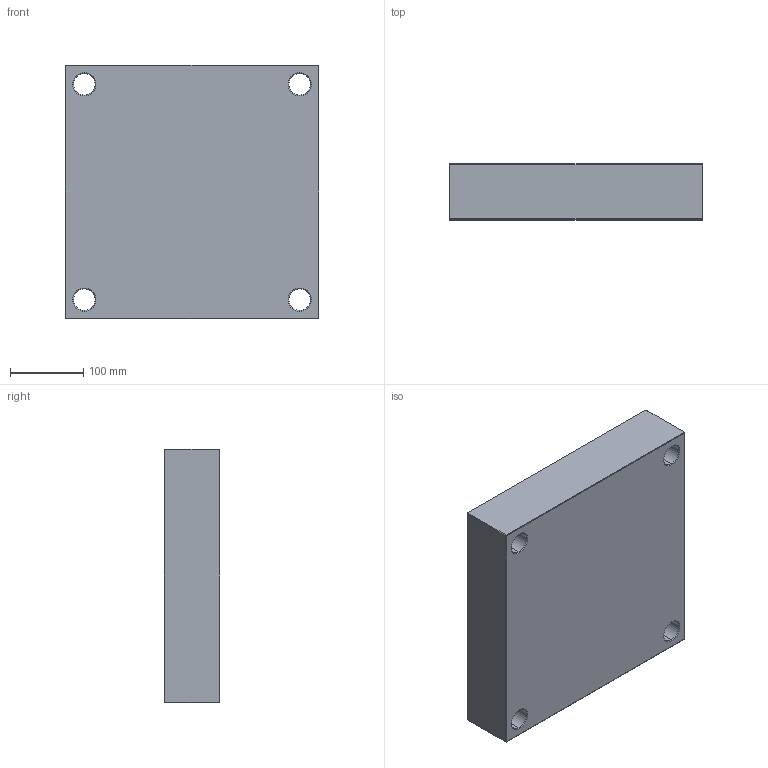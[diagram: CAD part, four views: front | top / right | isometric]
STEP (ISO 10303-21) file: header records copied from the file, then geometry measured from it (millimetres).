
FILE_DESCRIPTION (( 'STEP AP214' ), '1' );
FILE_NAME ('PCX-346x346x76.STEP', '2020-05-04T08:31:46', ( 'August' ), ( '' ), 'SwSTEP 2.0', 'SolidWorks 2018', '' );
FILE_SCHEMA (( 'AUTOMOTIVE_DESIGN' ));
Length unit declared in the file: millimetre
Products named in the file (1): PCX-346x346x76
Bounding box: 346 x 76 x 346 mm (x, y, z)
Volume: 8870610.6 mm3; surface area: 369048.3 mm2
Topology: 1 solids, 1 shells, 82 faces, 168 edges, 96 vertices
Faces by surface type: plane 34, cone 24, cylinder 24
Entity records: 2170 total; most frequent: DIRECTION 406, CARTESIAN_POINT 347, ORIENTED_EDGE 336, EDGE_CURVE 168, AXIS2_PLACEMENT_3D 155, EDGE_LOOP 98, LINE 96, VECTOR 96
